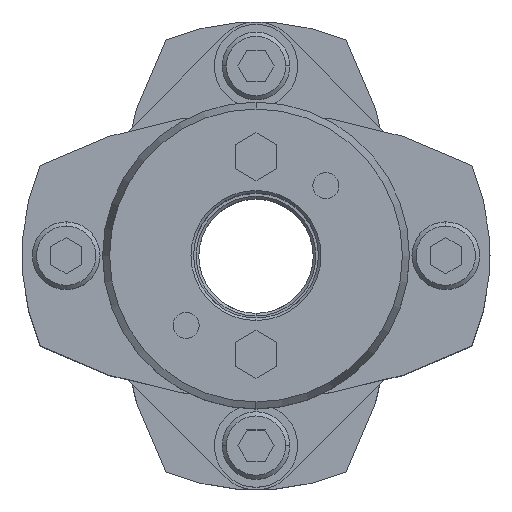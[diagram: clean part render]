
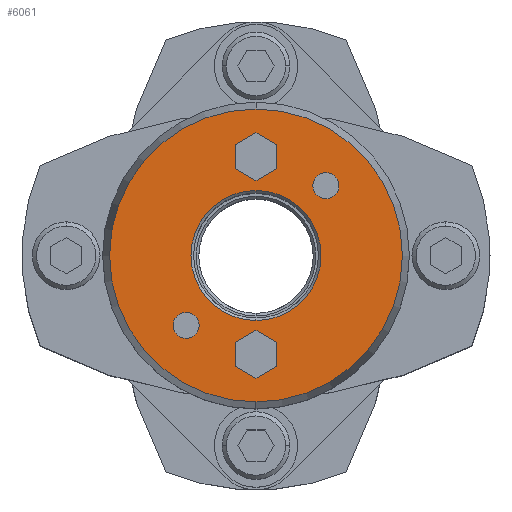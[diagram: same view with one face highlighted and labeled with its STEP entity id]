
A CAD part, top view. The second image highlights one B-rep face of the part: STEP entity #6061.
In plain terms, the highlighted planar face has unit normal (0, 0, 1).
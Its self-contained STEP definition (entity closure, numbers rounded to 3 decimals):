
#1677=CARTESIAN_POINT('',(0.,12.5,52.0));
#1678=VERTEX_POINT('',#1677);
#1694=CARTESIAN_POINT('',(0.,-12.5,52.0));
#1695=VERTEX_POINT('',#1694);
#1702=CARTESIAN_POINT('',(0.,0.,52.0));
#1703=DIRECTION('',(0.0,0.0,1.0));
#1704=DIRECTION('',(0.0,1.0,0.0));
#1705=AXIS2_PLACEMENT_3D('',#1702,#1703,#1704);
#1706=CIRCLE('',#1705,12.5);
#1707=EDGE_CURVE('',#1695,#1678,#1706,.T.);
#1865=CARTESIAN_POINT('',(0.,-28.16,52.0));
#1866=VERTEX_POINT('',#1865);
#1873=CARTESIAN_POINT('',(0.,28.16,52.0));
#1874=VERTEX_POINT('',#1873);
#1875=CARTESIAN_POINT('',(0.,0.,52.0));
#1876=DIRECTION('',(0.0,0.0,-1.0));
#1877=DIRECTION('',(0.0,-1.0,0.0));
#1878=AXIS2_PLACEMENT_3D('',#1875,#1876,#1877);
#1879=CIRCLE('',#1878,28.16);
#1880=EDGE_CURVE('',#1866,#1874,#1879,.T.);
#2123=CARTESIAN_POINT('',(-13.435,-10.935,52.0));
#2124=VERTEX_POINT('',#2123);
#2140=CARTESIAN_POINT('',(-13.435,-15.935,52.0));
#2141=VERTEX_POINT('',#2140);
#2148=CARTESIAN_POINT('',(-13.435,-13.435,52.0));
#2149=DIRECTION('',(0.0,0.0,-1.0));
#2150=DIRECTION('',(0.0,1.0,0.0));
#2151=AXIS2_PLACEMENT_3D('',#2148,#2149,#2150);
#2152=CIRCLE('',#2151,2.5);
#2153=EDGE_CURVE('',#2124,#2141,#2152,.T.);
#2165=CARTESIAN_POINT('',(13.435,15.935,52.0));
#2166=VERTEX_POINT('',#2165);
#2182=CARTESIAN_POINT('',(13.435,10.935,52.0));
#2183=VERTEX_POINT('',#2182);
#2190=CARTESIAN_POINT('',(13.435,13.435,52.0));
#2191=DIRECTION('',(0.0,0.0,-1.0));
#2192=DIRECTION('',(0.0,1.0,0.0));
#2193=AXIS2_PLACEMENT_3D('',#2190,#2191,#2192);
#2194=CIRCLE('',#2193,2.5);
#2195=EDGE_CURVE('',#2166,#2183,#2194,.T.);
#4776=CARTESIAN_POINT('',(13.435,13.435,52.0));
#4777=DIRECTION('',(0.0,0.0,-1.0));
#4778=DIRECTION('',(0.0,1.0,0.0));
#4779=AXIS2_PLACEMENT_3D('',#4776,#4777,#4778);
#4780=CIRCLE('',#4779,2.5);
#4781=EDGE_CURVE('',#2183,#2166,#4780,.T.);
#4810=CARTESIAN_POINT('',(-13.435,-13.435,52.0));
#4811=DIRECTION('',(0.0,0.0,-1.0));
#4812=DIRECTION('',(0.0,1.0,0.0));
#4813=AXIS2_PLACEMENT_3D('',#4810,#4811,#4812);
#4814=CIRCLE('',#4813,2.5);
#4815=EDGE_CURVE('',#2141,#2124,#4814,.T.);
#4853=CARTESIAN_POINT('',(0.,23.619,52.0));
#4854=VERTEX_POINT('',#4853);
#4861=CARTESIAN_POINT('',(-4.,21.309,52.0));
#4862=VERTEX_POINT('',#4861);
#4863=CARTESIAN_POINT('',(-4.,21.309,52.0));
#4864=DIRECTION('',(0.866,0.5,0.0));
#4865=VECTOR('',#4864,4.619);
#4866=LINE('',#4863,#4865);
#4867=EDGE_CURVE('',#4862,#4854,#4866,.T.);
#4891=CARTESIAN_POINT('',(4.,21.309,52.0));
#4892=VERTEX_POINT('',#4891);
#4899=CARTESIAN_POINT('',(0.,23.619,52.0));
#4900=DIRECTION('',(0.866,-0.5,0.0));
#4901=VECTOR('',#4900,4.619);
#4902=LINE('',#4899,#4901);
#4903=EDGE_CURVE('',#4854,#4892,#4902,.T.);
#4922=CARTESIAN_POINT('',(4.,16.691,52.0));
#4923=VERTEX_POINT('',#4922);
#4930=CARTESIAN_POINT('',(4.,21.309,52.0));
#4931=DIRECTION('',(0.0,-1.0,0.0));
#4932=VECTOR('',#4931,4.619);
#4933=LINE('',#4930,#4932);
#4934=EDGE_CURVE('',#4892,#4923,#4933,.T.);
#4953=CARTESIAN_POINT('',(0.,14.381,52.0));
#4954=VERTEX_POINT('',#4953);
#4961=CARTESIAN_POINT('',(4.,16.691,52.0));
#4962=DIRECTION('',(-0.866,-0.5,0.0));
#4963=VECTOR('',#4962,4.619);
#4964=LINE('',#4961,#4963);
#4965=EDGE_CURVE('',#4923,#4954,#4964,.T.);
#4984=CARTESIAN_POINT('',(-4.,16.691,52.0));
#4985=VERTEX_POINT('',#4984);
#4992=CARTESIAN_POINT('',(0.,14.381,52.0));
#4993=DIRECTION('',(-0.866,0.5,0.0));
#4994=VECTOR('',#4993,4.619);
#4995=LINE('',#4992,#4994);
#4996=EDGE_CURVE('',#4954,#4985,#4995,.T.);
#5014=CARTESIAN_POINT('',(-4.,16.691,52.0));
#5015=DIRECTION('',(0.0,1.0,0.0));
#5016=VECTOR('',#5015,4.619);
#5017=LINE('',#5014,#5016);
#5018=EDGE_CURVE('',#4985,#4862,#5017,.T.);
#5053=CARTESIAN_POINT('',(0.,-14.381,52.0));
#5054=VERTEX_POINT('',#5053);
#5061=CARTESIAN_POINT('',(-4.,-16.691,52.0));
#5062=VERTEX_POINT('',#5061);
#5063=CARTESIAN_POINT('',(-4.,-16.691,52.0));
#5064=DIRECTION('',(0.866,0.5,0.0));
#5065=VECTOR('',#5064,4.619);
#5066=LINE('',#5063,#5065);
#5067=EDGE_CURVE('',#5062,#5054,#5066,.T.);
#5091=CARTESIAN_POINT('',(4.,-16.691,52.0));
#5092=VERTEX_POINT('',#5091);
#5099=CARTESIAN_POINT('',(0.,-14.381,52.0));
#5100=DIRECTION('',(0.866,-0.5,0.0));
#5101=VECTOR('',#5100,4.619);
#5102=LINE('',#5099,#5101);
#5103=EDGE_CURVE('',#5054,#5092,#5102,.T.);
#5122=CARTESIAN_POINT('',(4.,-21.309,52.0));
#5123=VERTEX_POINT('',#5122);
#5130=CARTESIAN_POINT('',(4.,-16.691,52.0));
#5131=DIRECTION('',(0.0,-1.0,0.0));
#5132=VECTOR('',#5131,4.619);
#5133=LINE('',#5130,#5132);
#5134=EDGE_CURVE('',#5092,#5123,#5133,.T.);
#5153=CARTESIAN_POINT('',(0.,-23.619,52.0));
#5154=VERTEX_POINT('',#5153);
#5161=CARTESIAN_POINT('',(4.,-21.309,52.0));
#5162=DIRECTION('',(-0.866,-0.5,0.0));
#5163=VECTOR('',#5162,4.619);
#5164=LINE('',#5161,#5163);
#5165=EDGE_CURVE('',#5123,#5154,#5164,.T.);
#5184=CARTESIAN_POINT('',(-4.,-21.309,52.0));
#5185=VERTEX_POINT('',#5184);
#5192=CARTESIAN_POINT('',(0.,-23.619,52.0));
#5193=DIRECTION('',(-0.866,0.5,0.0));
#5194=VECTOR('',#5193,4.619);
#5195=LINE('',#5192,#5194);
#5196=EDGE_CURVE('',#5154,#5185,#5195,.T.);
#5214=CARTESIAN_POINT('',(-4.,-21.309,52.0));
#5215=DIRECTION('',(0.0,1.0,0.0));
#5216=VECTOR('',#5215,4.619);
#5217=LINE('',#5214,#5216);
#5218=EDGE_CURVE('',#5185,#5062,#5217,.T.);
#6008=CARTESIAN_POINT('',(0.,0.,52.0));
#6009=DIRECTION('',(0.0,0.0,-1.0));
#6010=DIRECTION('',(0.0,-1.0,0.0));
#6011=AXIS2_PLACEMENT_3D('',#6008,#6009,#6010);
#6012=CIRCLE('',#6011,28.16);
#6013=EDGE_CURVE('',#1874,#1866,#6012,.T.);
#6018=CARTESIAN_POINT('',(0.,2.682,52.0));
#6019=DIRECTION('',(0.0,0.0,1.0));
#6020=DIRECTION('',(0.0,1.0,0.0));
#6021=AXIS2_PLACEMENT_3D('',#6018,#6019,#6020);
#6022=PLANE('',#6021);
#6023=ORIENTED_EDGE('',*,*,#6013,.F.);
#6024=ORIENTED_EDGE('',*,*,#1880,.F.);
#6025=EDGE_LOOP('',(#6023,#6024));
#6026=FACE_OUTER_BOUND('',#6025,.T.);
#6027=ORIENTED_EDGE('',*,*,#2195,.T.);
#6028=ORIENTED_EDGE('',*,*,#4781,.T.);
#6029=EDGE_LOOP('',(#6027,#6028));
#6030=FACE_BOUND('',#6029,.T.);
#6031=ORIENTED_EDGE('',*,*,#2153,.T.);
#6032=ORIENTED_EDGE('',*,*,#4815,.T.);
#6033=EDGE_LOOP('',(#6031,#6032));
#6034=FACE_BOUND('',#6033,.T.);
#6035=ORIENTED_EDGE('',*,*,#4867,.T.);
#6036=ORIENTED_EDGE('',*,*,#4903,.T.);
#6037=ORIENTED_EDGE('',*,*,#4934,.T.);
#6038=ORIENTED_EDGE('',*,*,#4965,.T.);
#6039=ORIENTED_EDGE('',*,*,#4996,.T.);
#6040=ORIENTED_EDGE('',*,*,#5018,.T.);
#6041=EDGE_LOOP('',(#6035,#6036,#6037,#6038,#6039,#6040));
#6042=FACE_BOUND('',#6041,.T.);
#6043=ORIENTED_EDGE('',*,*,#5067,.T.);
#6044=ORIENTED_EDGE('',*,*,#5103,.T.);
#6045=ORIENTED_EDGE('',*,*,#5134,.T.);
#6046=ORIENTED_EDGE('',*,*,#5165,.T.);
#6047=ORIENTED_EDGE('',*,*,#5196,.T.);
#6048=ORIENTED_EDGE('',*,*,#5218,.T.);
#6049=EDGE_LOOP('',(#6043,#6044,#6045,#6046,#6047,#6048));
#6050=FACE_BOUND('',#6049,.T.);
#6051=ORIENTED_EDGE('',*,*,#1707,.F.);
#6052=CARTESIAN_POINT('',(0.,0.,52.0));
#6053=DIRECTION('',(0.0,0.0,1.0));
#6054=DIRECTION('',(0.0,1.0,0.0));
#6055=AXIS2_PLACEMENT_3D('',#6052,#6053,#6054);
#6056=CIRCLE('',#6055,12.5);
#6057=EDGE_CURVE('',#1678,#1695,#6056,.T.);
#6058=ORIENTED_EDGE('',*,*,#6057,.F.);
#6059=EDGE_LOOP('',(#6051,#6058));
#6060=FACE_BOUND('',#6059,.T.);
#6061=ADVANCED_FACE('',(#6026,#6030,#6034,#6042,#6050,#6060),#6022,.T.);
